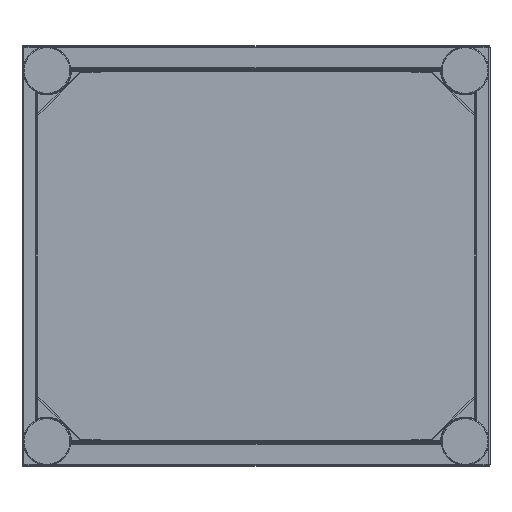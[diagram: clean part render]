
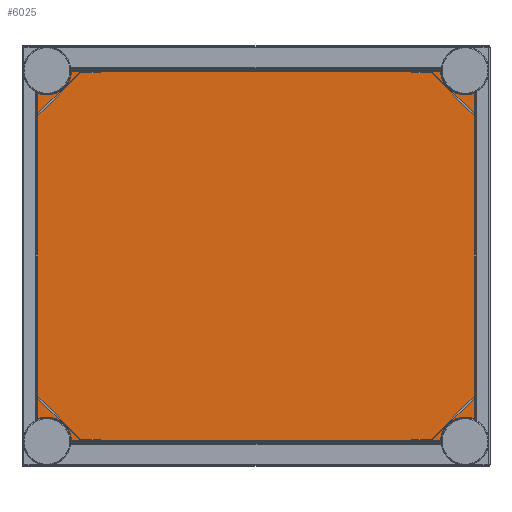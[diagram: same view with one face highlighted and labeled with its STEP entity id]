
A CAD part, front view. The second image highlights one B-rep face of the part: STEP entity #6025.
In plain terms, the highlighted planar face has unit normal (0, -1, 0).
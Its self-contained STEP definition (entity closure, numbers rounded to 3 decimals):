
#5466=CARTESIAN_POINT('',(265.85,-375.,-235.85));
#5467=DIRECTION('',(0.,1.,0.));
#5468=DIRECTION('',(-1.,0.,0.027));
#5469=AXIS2_PLACEMENT_3D('',#5466,#5467,#5468);
#5543=CARTESIAN_POINT('',(265.85,-375.,235.85));
#5544=DIRECTION('',(0.,1.,0.));
#5545=DIRECTION('',(0.422,0.,-0.907));
#5546=AXIS2_PLACEMENT_3D('',#5543,#5544,#5545);
#5624=DIRECTION('',(-1.,0.,0.));
#5625=VECTOR('',#5624,469.423);
#5626=CARTESIAN_POINT('',(234.712,-375.,235.));
#5627=LINE('',#5626,#5625);
#5628=DIRECTION('',(0.,0.,1.));
#5629=VECTOR('',#5628,415.223);
#5630=CARTESIAN_POINT('',(279.,-375.,-207.612));
#5631=LINE('',#5630,#5629);
#5632=DIRECTION('',(1.,0.,0.));
#5633=VECTOR('',#5632,469.423);
#5634=CARTESIAN_POINT('',(-234.712,-375.,-235.));
#5635=LINE('',#5634,#5633);
#5636=DIRECTION('',(0.,0.,-1.));
#5637=VECTOR('',#5636,415.223);
#5638=CARTESIAN_POINT('',(-279.,-375.,207.612));
#5639=LINE('',#5638,#5637);
#5664=CARTESIAN_POINT('',(-265.85,-375.,235.85));
#5665=DIRECTION('',(0.,1.,0.));
#5666=DIRECTION('',(1.,0.,-0.027));
#5667=AXIS2_PLACEMENT_3D('',#5664,#5665,#5666);
#5685=CARTESIAN_POINT('',(-265.85,-375.,-235.85));
#5686=DIRECTION('',(0.,1.,0.));
#5687=DIRECTION('',(-0.422,0.,0.907));
#5688=AXIS2_PLACEMENT_3D('',#5685,#5686,#5687);
#5786=CARTESIAN_POINT('',(-234.712,-375.,235.));
#5787=CARTESIAN_POINT('',(-279.,-375.,207.612));
#5788=VERTEX_POINT('',#5786);
#5789=VERTEX_POINT('',#5787);
#5790=CARTESIAN_POINT('',(279.,-375.,207.612));
#5791=CARTESIAN_POINT('',(234.712,-375.,235.));
#5792=VERTEX_POINT('',#5790);
#5793=VERTEX_POINT('',#5791);
#5794=CARTESIAN_POINT('',(234.712,-375.,-235.));
#5795=CARTESIAN_POINT('',(279.,-375.,-207.612));
#5796=VERTEX_POINT('',#5794);
#5797=VERTEX_POINT('',#5795);
#5798=CARTESIAN_POINT('',(-279.,-375.,-207.612));
#5799=CARTESIAN_POINT('',(-234.712,-375.,-235.));
#5800=VERTEX_POINT('',#5798);
#5801=VERTEX_POINT('',#5799);
#6005=CARTESIAN_POINT('',(0.,-375.,0.));
#6006=DIRECTION('',(0.,-1.,0.));
#6007=DIRECTION('',(-1.,0.,0.));
#6008=AXIS2_PLACEMENT_3D('',#6005,#6006,#6007);
#6009=PLANE('',#6008);
#6011=ORIENTED_EDGE('',*,*,#6010,.F.);
#6013=ORIENTED_EDGE('',*,*,#6012,.F.);
#6014=ORIENTED_EDGE('',*,*,#5925,.F.);
#6015=ORIENTED_EDGE('',*,*,#5999,.F.);
#6016=ORIENTED_EDGE('',*,*,#5850,.F.);
#6018=ORIENTED_EDGE('',*,*,#6017,.F.);
#6020=ORIENTED_EDGE('',*,*,#6019,.F.);
#6022=ORIENTED_EDGE('',*,*,#6021,.F.);
#6023=EDGE_LOOP('',(#6011,#6013,#6014,#6015,#6016,#6018,#6020,#6022));
#6024=FACE_OUTER_BOUND('',#6023,.F.);
#5470=CIRCLE('',#5469,31.15);
#5547=CIRCLE('',#5546,31.15);
#5668=CIRCLE('',#5667,31.15);
#5689=CIRCLE('',#5688,31.15);
#5850=EDGE_CURVE('',#5796,#5797,#5470,.T.);
#5925=EDGE_CURVE('',#5792,#5793,#5547,.T.);
#5999=EDGE_CURVE('',#5797,#5792,#5631,.T.);
#6010=EDGE_CURVE('',#5788,#5789,#5668,.T.);
#6012=EDGE_CURVE('',#5793,#5788,#5627,.T.);
#6017=EDGE_CURVE('',#5801,#5796,#5635,.T.);
#6019=EDGE_CURVE('',#5800,#5801,#5689,.T.);
#6021=EDGE_CURVE('',#5789,#5800,#5639,.T.);
#6025=ADVANCED_FACE('',(#6024),#6009,.T.);
